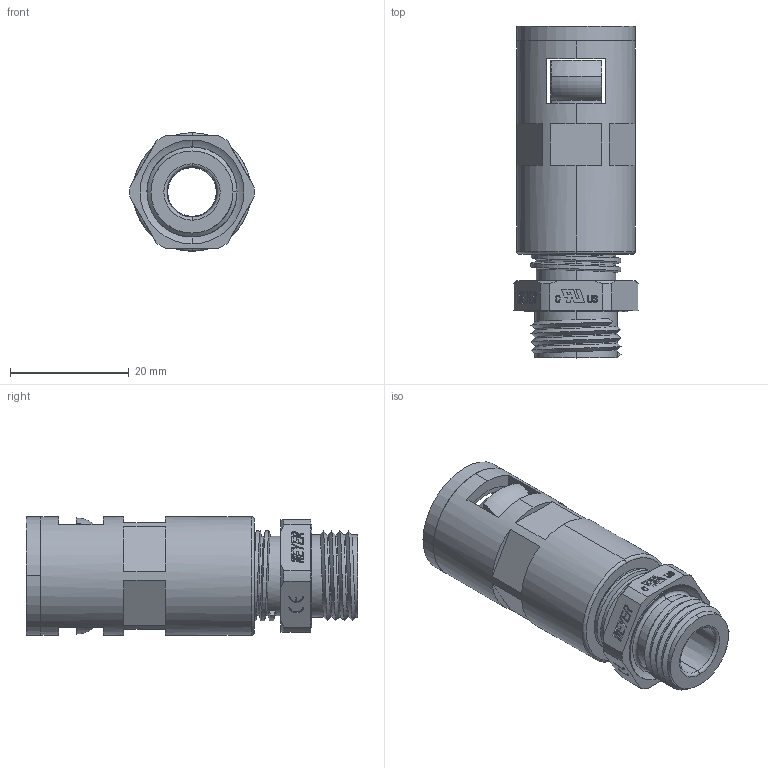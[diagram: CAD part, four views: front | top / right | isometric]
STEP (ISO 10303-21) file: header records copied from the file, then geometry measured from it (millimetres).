
FILE_DESCRIPTION (( 'STEP AP203' ), '1' );
FILE_NAME ('WQGZ-P09-AD13.0.STEP', '2020-03-11T05:04:23', ( '' ), ( '' ), 'SwSTEP 2.0', 'SolidWorks 2016', '' );
FILE_SCHEMA (( 'CONFIG_CONTROL_DESIGN' ));
Length unit declared in the file: millimetre
Products named in the file (8): HSK-P09-01; NSK-AD13.0; WQGZ-P09-AD13.0; WQG2-Tr15-AD13.0-01; 蚾饜极4; WQG2-Tr15-AD13.0; CTH-P09; GFD-AD13.0
Assembly tree (7 placements, depth 3):
  WQGZ-P09-AD13.0
    WQG2-Tr15-AD13.0
      WQG2-Tr15-AD13.0-01
      GFD-AD13.0
      NSK-AD13.0
    蚾饜极4
      HSK-P09-01
      CTH-P09
Bounding box: 20.99 x 56 x 20 mm (x, y, z)
Volume: 8508.9 mm3; surface area: 10953.6 mm2
Topology: 4 solids, 7 shells, 510 faces, 1336 edges, 864 vertices
Faces by surface type: plane 259, bspline 78, cone 66, cylinder 66, torus 41
Entity records: 21224 total; most frequent: CARTESIAN_POINT 8411, ORIENTED_EDGE 2664, DIRECTION 2249, EDGE_CURVE 1336, VERTEX_POINT 864, AXIS2_PLACEMENT_3D 779, LINE 691, VECTOR 691
